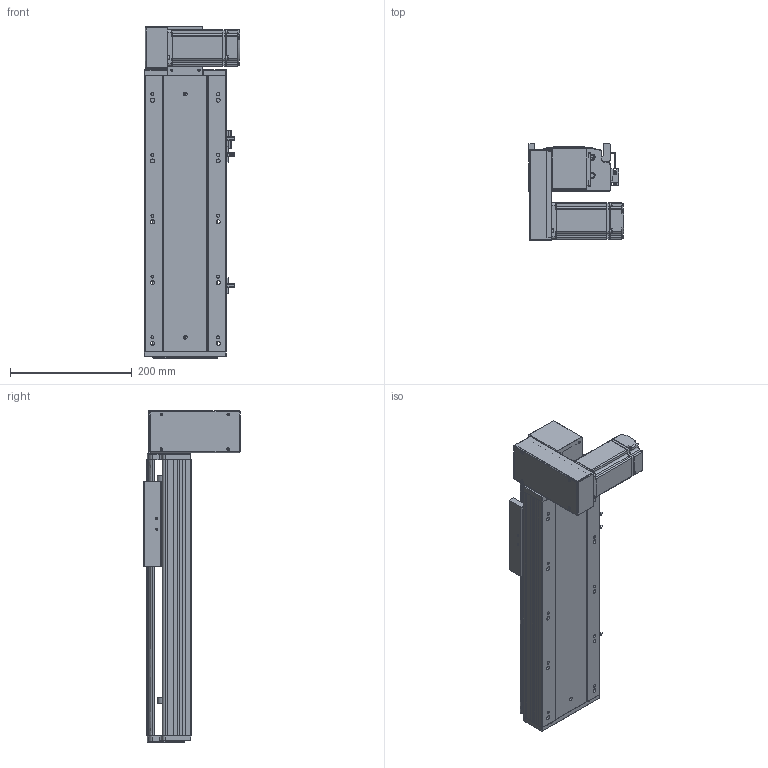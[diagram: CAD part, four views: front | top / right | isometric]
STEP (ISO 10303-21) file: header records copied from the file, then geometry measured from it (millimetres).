
FILE_DESCRIPTION (( 'STEP AP203' ), '1' );
FILE_NAME ('RY140-T-300-DL.SLDASM_200.step', '2021-03-01T06:05:22', ( '盈信电脑' ), ( '东莞市道滘镇水果街19号' ), 'SwSTEP 2.0', 'SolidWorks 2012', '' );
FILE_SCHEMA (( 'CONFIG_CONTROL_DESIGN' ));
Products named in the file (18): RY140-T翋肮謫裔啣; RY140-T-300-DL.SLDASM_200; 滅袉蝶18-10; RY120-T主同步轮轴承压盖; RY120-T蹟翐M4; RY140-T萇儂欶; 侂狟400W侜督萇儂; RY140-T翋肮祭謫盓傅釱; 15; RY140-T萇儂假蚾啣; RY120-T肮祭湍揤踡輸2; 覜茼ん672; RY120外置感应片(140共用）; RY120-T肮祭湍揤踡輸1; RY140-T-300-DL倰第菁釱_200; RY140綴裔啣; RY140-T-300-DL倰第奻裔啣_200; RY140肮祭謫臏賑輸
Assembly tree (23 placements, depth 3):
  RY140-T-300-DL.SLDASM_200
    RY140-T-300-DL倰第菁釱_200
    RY140肮祭謫臏賑輸
    RY140-T-300-DL倰第奻裔啣_200
    RY140綴裔啣
    覜茼ん672  x3
    RY120外置感应片(140共用）
    RY120-T肮祭湍揤踡輸2
    RY120-T肮祭湍揤踡輸1
    RY140-T翋肮祭謫盓傅釱
    RY140-T萇儂假蚾啣
    侂狟400W侜督萇儂
      15
    RY120-T主同步轮轴承压盖
    RY120-T蹟翐M4  x4
    RY140-T萇儂欶
    滅袉蝶18-10  x2
    RY140-T翋肮謫裔啣
Bounding box: 157 x 158.5 x 546 mm (x, y, z)
Volume: 2081579.2 mm3; surface area: 743546.1 mm2
Topology: 22 solids, 22 shells, 2542 faces, 6942 edges, 4488 vertices
Faces by surface type: plane 1389, cylinder 887, cone 166, bspline 100
Entity records: 80456 total; most frequent: CARTESIAN_POINT 19703, ORIENTED_EDGE 12476, DIRECTION 11804, EDGE_CURVE 6238, VERTEX_POINT 4087, VECTOR 4066, LINE 4066, AXIS2_PLACEMENT_3D 3869
